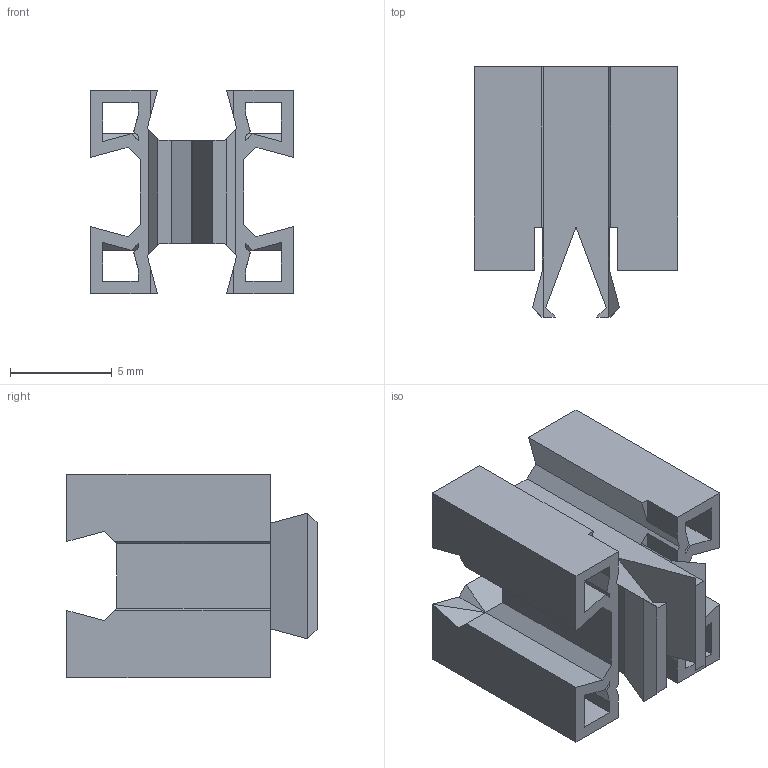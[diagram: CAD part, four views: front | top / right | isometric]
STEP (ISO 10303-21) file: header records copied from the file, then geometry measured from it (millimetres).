
FILE_DESCRIPTION(/* description */ (''),/* implementation_level */ '2;1');
FILE_NAME(/* name */ 'C:/Users/priba/Documents/Temp/Backup/Brick 1x1x1 v3.step',/* time_stamp */ '2019-07-02T17:28:46+02:00',/* author */ (''),/* organization */ (''),/* preprocessor_version */ 'ST-DEVELOPER v18',/* originating_system */ 'Autodesk Translation Framework v8.2.0.1029',/* authorisation */ '');
FILE_SCHEMA (('AUTOMOTIVE_DESIGN { 1 0 10303 214 3 1 1 }'));
Length unit declared in the file: millimetre
Products named in the file (1): Brick 1x1x1
Bounding box: 10 x 12.31 x 10 mm (x, y, z)
Volume: 379 mm3; surface area: 1298.2 mm2
Topology: 1 solids, 1 shells, 148 faces, 404 edges, 252 vertices
Faces by surface type: plane 148
Entity records: 4562 total; most frequent: ORIENTED_EDGE 808, CARTESIAN_POINT 805, DIRECTION 702, LINE 404, VECTOR 404, EDGE_CURVE 404, VERTEX_POINT 252, EDGE_LOOP 156
